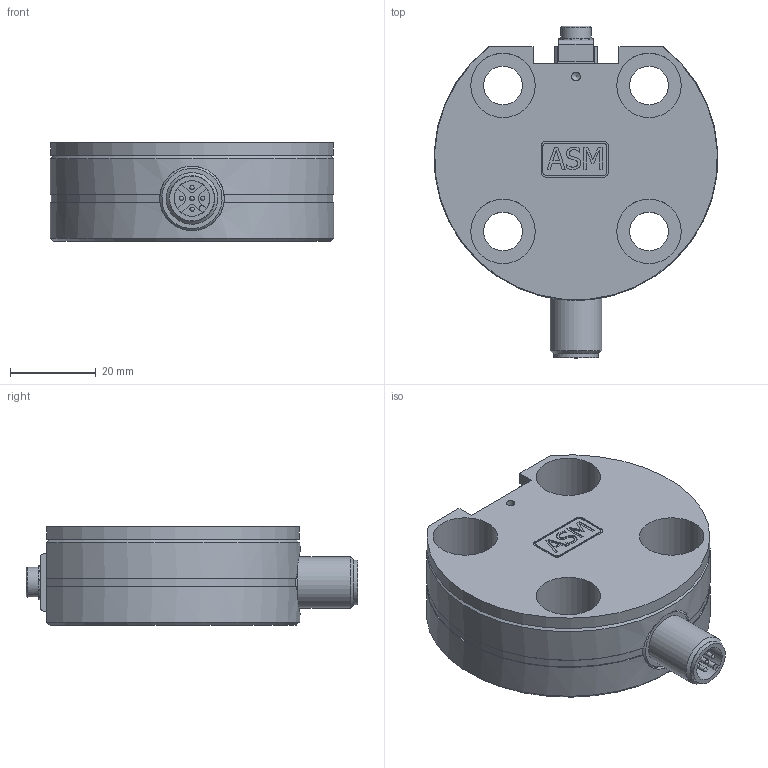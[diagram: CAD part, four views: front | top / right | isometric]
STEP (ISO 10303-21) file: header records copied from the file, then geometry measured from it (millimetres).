
FILE_DESCRIPTION((''),'2;1');
FILE_NAME('K:\Daten\pras5exrad.stp','2014-01-23T11:53:55',('kamp'),(''),'Autodesk Inventor 2008','Autodesk Inventor 2008','');
FILE_SCHEMA(('AUTOMOTIVE_DESIGN { 1 0 10303 214 1 1 1 1 }'));
Length unit declared in the file: millimetre
Products named in the file (1): Bauteil22
Bounding box: 65.94 x 77.2 x 23 mm (x, y, z)
Volume: 62220.5 mm3; surface area: 15860 mm2
Topology: 1 solids, 1 shells, 276 faces, 745 edges, 484 vertices
Faces by surface type: plane 173, cylinder 54, bspline 39, cone 5, sphere 5
Full cylindrical faces by diameter (mm): 1 x5, 7 x1, 8.3 x1, 10.4 x1, 12 x1, 15 x1
Entity records: 8955 total; most frequent: CARTESIAN_POINT 2106, ORIENTED_EDGE 1402, DIRECTION 1285, EDGE_CURVE 701, VERTEX_POINT 474, VECTOR 465, LINE 465, AXIS2_PLACEMENT_3D 410
